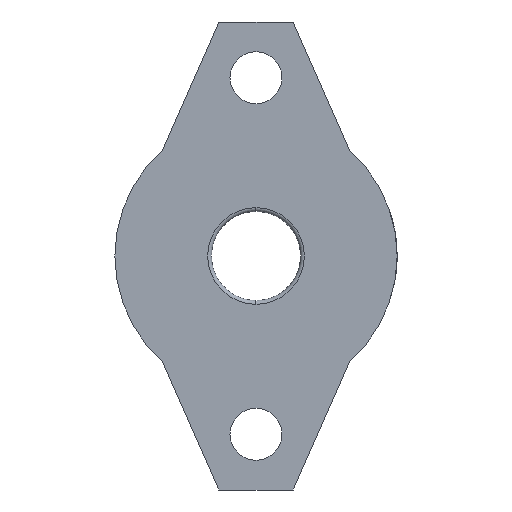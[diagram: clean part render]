
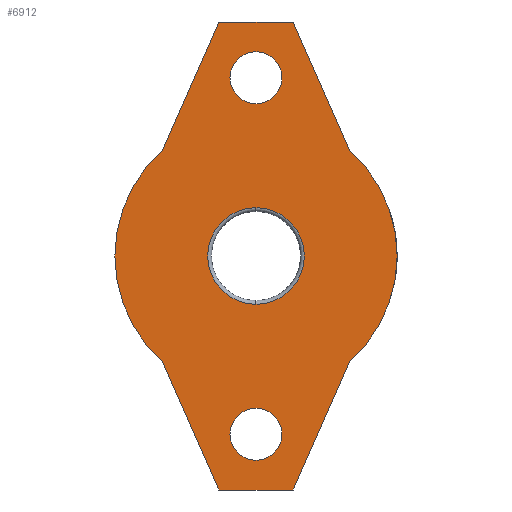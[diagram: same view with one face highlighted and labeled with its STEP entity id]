
A CAD part, front view. The second image highlights one B-rep face of the part: STEP entity #6912.
In plain terms, the highlighted planar face has unit normal (0, -1, 0).
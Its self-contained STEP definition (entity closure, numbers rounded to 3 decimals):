
#2 = DIRECTION ( 'NONE',  ( 0., 0., 1. ) ) ;
#38 = ORIENTED_EDGE ( 'NONE', *, *, #1030, .F. ) ;
#106 = DIRECTION ( 'NONE',  ( 0., 1., 0. ) ) ;
#143 = CARTESIAN_POINT ( 'NONE',  ( 5., 0., 31.5 ) ) ;
#145 = DIRECTION ( 'NONE',  ( 0., 1., 0. ) ) ;
#179 = DIRECTION ( 'NONE',  ( 0., 0., 1. ) ) ;
#210 = ORIENTED_EDGE ( 'NONE', *, *, #1841, .F. ) ;
#218 = VERTEX_POINT ( 'NONE', #6383 ) ;
#272 = FACE_OUTER_BOUND ( 'NONE', #5216, .T. ) ;
#274 = DIRECTION ( 'NONE',  ( 1., 0., 0. ) ) ;
#285 = LINE ( 'NONE', #3636, #601 ) ;
#295 = AXIS2_PLACEMENT_3D ( 'NONE', #3791, #421, #4355 ) ;
#299 = DIRECTION ( 'NONE',  ( -0.403, 0., 0.915 ) ) ;
#378 = VERTEX_POINT ( 'NONE', #5924 ) ;
#421 = DIRECTION ( 'NONE',  ( 0., 1., 0. ) ) ;
#427 = FACE_BOUND ( 'NONE', #2066, .T. ) ;
#541 = VERTEX_POINT ( 'NONE', #3899 ) ;
#578 = LINE ( 'NONE', #3693, #1939 ) ;
#583 = CIRCLE ( 'NONE', #295, 6.5 ) ;
#591 = CIRCLE ( 'NONE', #7240, 3.5 ) ;
#601 = VECTOR ( 'NONE', #274, 1000. ) ;
#646 = ORIENTED_EDGE ( 'NONE', *, *, #6875, .T. ) ;
#690 = LINE ( 'NONE', #5371, #5523 ) ;
#720 = VERTEX_POINT ( 'NONE', #6762 ) ;
#809 = LINE ( 'NONE', #1967, #6588 ) ;
#816 = EDGE_CURVE ( 'NONE', #3389, #2198, #809, .T. ) ;
#1030 = EDGE_CURVE ( 'NONE', #5847, #1759, #285, .T. ) ;
#1043 = EDGE_CURVE ( 'NONE', #7213, #4195, #3259, .T. ) ;
#1208 = CIRCLE ( 'NONE', #6395, 19. ) ;
#1266 = DIRECTION ( 'NONE',  ( 0.403, 0., -0.915 ) ) ;
#1282 = CARTESIAN_POINT ( 'NONE',  ( 0., 0., 6.5 ) ) ;
#1311 = CARTESIAN_POINT ( 'NONE',  ( -5., 0., -31.5 ) ) ;
#1334 = CARTESIAN_POINT ( 'NONE',  ( 0., 0., 24. ) ) ;
#1441 = EDGE_CURVE ( 'NONE', #2198, #720, #3862, .T. ) ;
#1445 = CARTESIAN_POINT ( 'NONE',  ( 0., 0., 0. ) ) ;
#1487 = DIRECTION ( 'NONE',  ( 0., -1., 0. ) ) ;
#1503 = AXIS2_PLACEMENT_3D ( 'NONE', #1334, #5252, #1896 ) ;
#1595 = EDGE_CURVE ( 'NONE', #3389, #3819, #6659, .T. ) ;
#1660 = ORIENTED_EDGE ( 'NONE', *, *, #6864, .T. ) ;
#1681 = ORIENTED_EDGE ( 'NONE', *, *, #2307, .F. ) ;
#1685 = ORIENTED_EDGE ( 'NONE', *, *, #5640, .T. ) ;
#1718 = FACE_BOUND ( 'NONE', #2289, .T. ) ;
#1759 = VERTEX_POINT ( 'NONE', #143 ) ;
#1841 = EDGE_CURVE ( 'NONE', #4884, #541, #6138, .T. ) ;
#1869 = ORIENTED_EDGE ( 'NONE', *, *, #1441, .F. ) ;
#1896 = DIRECTION ( 'NONE',  ( 0., 0., 1. ) ) ;
#1939 = VECTOR ( 'NONE', #5921, 1000. ) ;
#1963 = CARTESIAN_POINT ( 'NONE',  ( 0., 0., -20.5 ) ) ;
#1965 = EDGE_LOOP ( 'NONE', ( #210, #1681 ) ) ;
#1967 = CARTESIAN_POINT ( 'NONE',  ( -15.809, 0., -6.964 ) ) ;
#2010 = DIRECTION ( 'NONE',  ( 0., 0., 1. ) ) ;
#2041 = VECTOR ( 'NONE', #2487, 1000. ) ;
#2066 = EDGE_LOOP ( 'NONE', ( #1685, #646 ) ) ;
#2097 = FACE_BOUND ( 'NONE', #1965, .T. ) ;
#2198 = VERTEX_POINT ( 'NONE', #2952 ) ;
#2253 = EDGE_CURVE ( 'NONE', #4195, #7213, #591, .T. ) ;
#2289 = EDGE_LOOP ( 'NONE', ( #3156, #7134 ) ) ;
#2307 = EDGE_CURVE ( 'NONE', #541, #4884, #3256, .T. ) ;
#2487 = DIRECTION ( 'NONE',  ( 1., 0., 0. ) ) ;
#2579 = PLANE ( 'NONE',  #6739 ) ;
#2660 = EDGE_CURVE ( 'NONE', #378, #218, #1208, .T. ) ;
#2821 = EDGE_CURVE ( 'NONE', #5847, #720, #690, .T. ) ;
#2891 = CARTESIAN_POINT ( 'NONE',  ( 0., 0., -6.5 ) ) ;
#2952 = CARTESIAN_POINT ( 'NONE',  ( -12.62, 0., -14.204 ) ) ;
#3057 = ORIENTED_EDGE ( 'NONE', *, *, #2660, .F. ) ;
#3136 = ORIENTED_EDGE ( 'NONE', *, *, #1595, .T. ) ;
#3146 = DIRECTION ( 'NONE',  ( 0., 1., 0. ) ) ;
#3156 = ORIENTED_EDGE ( 'NONE', *, *, #1043, .T. ) ;
#3160 = AXIS2_PLACEMENT_3D ( 'NONE', #4847, #1487, #5412 ) ;
#3256 = CIRCLE ( 'NONE', #1503, 3.5 ) ;
#3259 = CIRCLE ( 'NONE', #3405, 3.5 ) ;
#3381 = DIRECTION ( 'NONE',  ( 0., 1., 0. ) ) ;
#3389 = VERTEX_POINT ( 'NONE', #1311 ) ;
#3405 = AXIS2_PLACEMENT_3D ( 'NONE', #6727, #3381, #2 ) ;
#3476 = CARTESIAN_POINT ( 'NONE',  ( 0., 0., 0. ) ) ;
#3507 = CARTESIAN_POINT ( 'NONE',  ( 0., 0., -24. ) ) ;
#3541 = DIRECTION ( 'NONE',  ( 0., 1., 0. ) ) ;
#3636 = CARTESIAN_POINT ( 'NONE',  ( 0., 0., 31.5 ) ) ;
#3674 = AXIS2_PLACEMENT_3D ( 'NONE', #3476, #106, #4038 ) ;
#3693 = CARTESIAN_POINT ( 'NONE',  ( 15.809, 0., -6.964 ) ) ;
#3791 = CARTESIAN_POINT ( 'NONE',  ( 0., 0., 0. ) ) ;
#3819 = VERTEX_POINT ( 'NONE', #6907 ) ;
#3862 = CIRCLE ( 'NONE', #3674, 19. ) ;
#3899 = CARTESIAN_POINT ( 'NONE',  ( 0., 0., 27.5 ) ) ;
#3994 = ORIENTED_EDGE ( 'NONE', *, *, #816, .F. ) ;
#3999 = CARTESIAN_POINT ( 'NONE',  ( -5., 0., 31.5 ) ) ;
#4038 = DIRECTION ( 'NONE',  ( 0., 0., 1. ) ) ;
#4062 = CARTESIAN_POINT ( 'NONE',  ( 0., 0., -27.5 ) ) ;
#4070 = DIRECTION ( 'NONE',  ( 0., 0., 1. ) ) ;
#4195 = VERTEX_POINT ( 'NONE', #1963 ) ;
#4355 = DIRECTION ( 'NONE',  ( 0., 0., 1. ) ) ;
#4482 = VERTEX_POINT ( 'NONE', #2891 ) ;
#4744 = CIRCLE ( 'NONE', #5275, 6.5 ) ;
#4847 = CARTESIAN_POINT ( 'NONE',  ( 0., 0., 24. ) ) ;
#4884 = VERTEX_POINT ( 'NONE', #5414 ) ;
#5216 = EDGE_LOOP ( 'NONE', ( #5394, #38, #6609, #1869, #3994, #3136, #1660, #3057 ) ) ;
#5252 = DIRECTION ( 'NONE',  ( 0., -1., 0. ) ) ;
#5275 = AXIS2_PLACEMENT_3D ( 'NONE', #1445, #5372, #2010 ) ;
#5280 = CARTESIAN_POINT ( 'NONE',  ( 0., 0., -31.5 ) ) ;
#5356 = VECTOR ( 'NONE', #1266, 1000. ) ;
#5371 = CARTESIAN_POINT ( 'NONE',  ( -15.809, 0., 6.964 ) ) ;
#5372 = DIRECTION ( 'NONE',  ( 0., 1., 0. ) ) ;
#5394 = ORIENTED_EDGE ( 'NONE', *, *, #7231, .F. ) ;
#5412 = DIRECTION ( 'NONE',  ( 0., 0., 1. ) ) ;
#5414 = CARTESIAN_POINT ( 'NONE',  ( 0., 0., 20.5 ) ) ;
#5474 = VERTEX_POINT ( 'NONE', #1282 ) ;
#5523 = VECTOR ( 'NONE', #7009, 1000. ) ;
#5640 = EDGE_CURVE ( 'NONE', #5474, #4482, #583, .T. ) ;
#5847 = VERTEX_POINT ( 'NONE', #3999 ) ;
#5921 = DIRECTION ( 'NONE',  ( 0.403, 0., 0.915 ) ) ;
#5924 = CARTESIAN_POINT ( 'NONE',  ( 12.62, 0., 14.204 ) ) ;
#6138 = CIRCLE ( 'NONE', #3160, 3.5 ) ;
#6383 = CARTESIAN_POINT ( 'NONE',  ( 12.62, 0., -14.204 ) ) ;
#6395 = AXIS2_PLACEMENT_3D ( 'NONE', #6892, #3541, #179 ) ;
#6496 = CARTESIAN_POINT ( 'NONE',  ( 0., 0., 0. ) ) ;
#6588 = VECTOR ( 'NONE', #299, 1000. ) ;
#6609 = ORIENTED_EDGE ( 'NONE', *, *, #2821, .T. ) ;
#6659 = LINE ( 'NONE', #5280, #2041 ) ;
#6727 = CARTESIAN_POINT ( 'NONE',  ( 0., 0., -24. ) ) ;
#6739 = AXIS2_PLACEMENT_3D ( 'NONE', #6496, #3146, #7049 ) ;
#6762 = CARTESIAN_POINT ( 'NONE',  ( -12.62, 0., 14.204 ) ) ;
#6817 = LINE ( 'NONE', #6883, #5356 ) ;
#6864 = EDGE_CURVE ( 'NONE', #3819, #218, #578, .T. ) ;
#6875 = EDGE_CURVE ( 'NONE', #4482, #5474, #4744, .T. ) ;
#6883 = CARTESIAN_POINT ( 'NONE',  ( 15.809, 0., 6.964 ) ) ;
#6892 = CARTESIAN_POINT ( 'NONE',  ( 0., 0., 0. ) ) ;
#6907 = CARTESIAN_POINT ( 'NONE',  ( 5., 0., -31.5 ) ) ;
#6912 = ADVANCED_FACE ( 'NONE', ( #427, #2097, #1718, #272 ), #2579, .F. ) ;
#7009 = DIRECTION ( 'NONE',  ( -0.403, 0., -0.915 ) ) ;
#7049 = DIRECTION ( 'NONE',  ( 0., 0., 1. ) ) ;
#7134 = ORIENTED_EDGE ( 'NONE', *, *, #2253, .T. ) ;
#7213 = VERTEX_POINT ( 'NONE', #4062 ) ;
#7231 = EDGE_CURVE ( 'NONE', #1759, #378, #6817, .T. ) ;
#7240 = AXIS2_PLACEMENT_3D ( 'NONE', #3507, #145, #4070 ) ;
